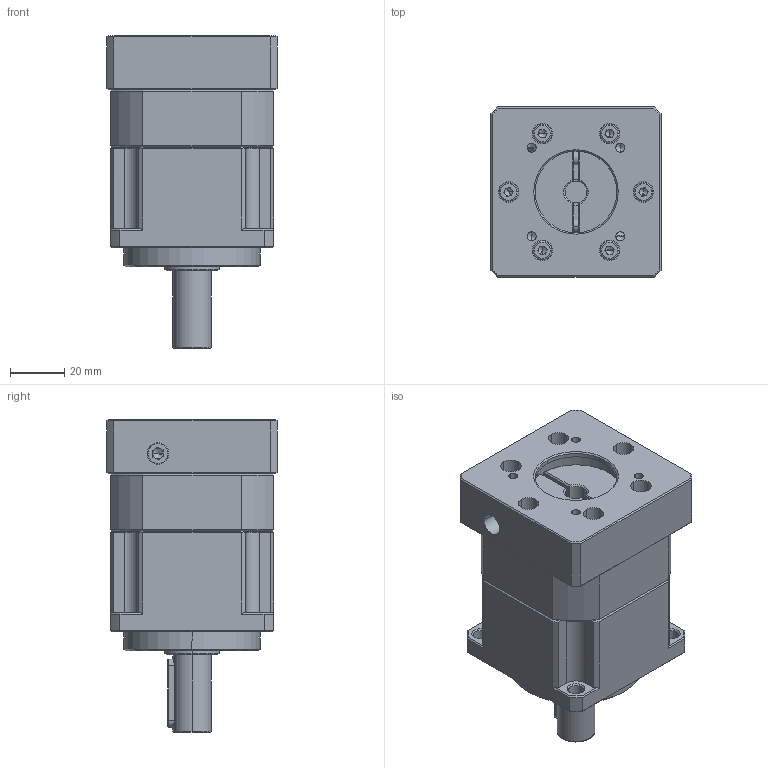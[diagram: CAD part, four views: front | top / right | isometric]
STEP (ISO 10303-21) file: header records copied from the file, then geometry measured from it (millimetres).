
FILE_DESCRIPTION (( 'STEP AP214' ), '1' );
FILE_NAME ('ZPB060-D14-L1-P1-8-30-46-M4.step', '2024-04-23T14:22:27', ( 'Windows 蚚誧' ), ( 'Organization' ), 'SwSTEP 2.0', 'SolidWorks 2016', '' );
FILE_SCHEMA (( 'AUTOMOTIVE_DESIGN' ));
Length unit declared in the file: millimetre
Products named in the file (1): ZPB060-D14-L1-P1-8-30-46-M4
Bounding box: 62.5 x 62.5 x 115 mm (x, y, z)
Volume: 248685.5 mm3; surface area: 76253.5 mm2
Topology: 17 solids, 17 shells, 1861 faces, 5227 edges, 3369 vertices
Faces by surface type: plane 911, bspline 322, cylinder 307, cone 179, torus 96, sphere 46
Entity records: 97924 total; most frequent: CARTESIAN_POINT 32468, ORIENTED_EDGE 10114, DIRECTION 8022, EDGE_CURVE 5057, VERTEX_POINT 3300, LINE 2910, VECTOR 2910, AXIS2_PLACEMENT_3D 2556
